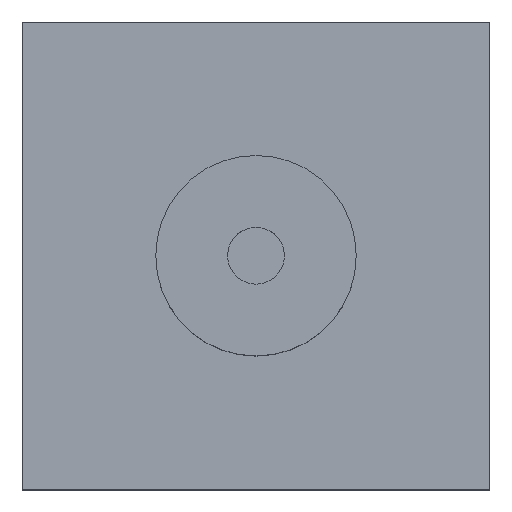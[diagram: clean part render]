
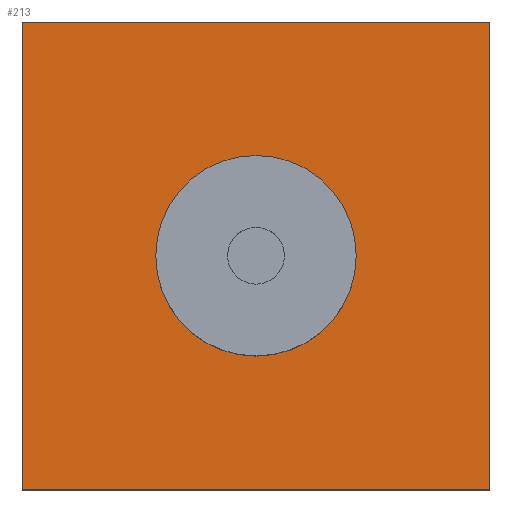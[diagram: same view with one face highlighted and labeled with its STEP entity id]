
A CAD part, top view. The second image highlights one B-rep face of the part: STEP entity #213.
In plain terms, the highlighted planar face has unit normal (0, 0, 1).
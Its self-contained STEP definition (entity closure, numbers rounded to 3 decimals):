
#24 = VERTEX_POINT('',#25);
#25 = CARTESIAN_POINT('',(-7.,-7.,3.));
#32 = PLANE('',#33);
#33 = AXIS2_PLACEMENT_3D('',#34,#35,#36);
#34 = CARTESIAN_POINT('',(-7.,-7.,0.));
#35 = DIRECTION('',(1.,0.,-0.));
#36 = DIRECTION('',(0.,0.,1.));
#44 = PLANE('',#45);
#45 = AXIS2_PLACEMENT_3D('',#46,#47,#48);
#46 = CARTESIAN_POINT('',(-7.,-7.,0.));
#47 = DIRECTION('',(-0.,1.,0.));
#48 = DIRECTION('',(0.,0.,1.));
#85 = VERTEX_POINT('',#86);
#86 = CARTESIAN_POINT('',(-7.,7.,3.));
#100 = PLANE('',#101);
#101 = AXIS2_PLACEMENT_3D('',#102,#103,#104);
#102 = CARTESIAN_POINT('',(-7.,7.,0.));
#103 = DIRECTION('',(-0.,1.,0.));
#104 = DIRECTION('',(0.,0.,1.));
#112 = EDGE_CURVE('',#24,#85,#113,.T.);
#113 = SURFACE_CURVE('',#114,(#118,#125),.PCURVE_S1.);
#114 = LINE('',#115,#116);
#115 = CARTESIAN_POINT('',(-7.,-7.,3.));
#116 = VECTOR('',#117,1.);
#117 = DIRECTION('',(-0.,1.,0.));
#118 = PCURVE('',#32,#119);
#119 = DEFINITIONAL_REPRESENTATION('',(#120),#124);
#120 = LINE('',#121,#122);
#121 = CARTESIAN_POINT('',(3.,0.));
#122 = VECTOR('',#123,1.);
#123 = DIRECTION('',(0.,-1.));
#124 = ( GEOMETRIC_REPRESENTATION_CONTEXT(2) 
PARAMETRIC_REPRESENTATION_CONTEXT() REPRESENTATION_CONTEXT('2D SPACE',''
  ) );
#125 = PCURVE('',#126,#131);
#126 = PLANE('',#127);
#127 = AXIS2_PLACEMENT_3D('',#128,#129,#130);
#128 = CARTESIAN_POINT('',(-7.,-7.,3.));
#129 = DIRECTION('',(0.,0.,1.));
#130 = DIRECTION('',(1.,0.,-0.));
#131 = DEFINITIONAL_REPRESENTATION('',(#132),#136);
#132 = LINE('',#133,#134);
#133 = CARTESIAN_POINT('',(0.,0.));
#134 = VECTOR('',#135,1.);
#135 = DIRECTION('',(0.,1.));
#136 = ( GEOMETRIC_REPRESENTATION_CONTEXT(2) 
PARAMETRIC_REPRESENTATION_CONTEXT() REPRESENTATION_CONTEXT('2D SPACE',''
  ) );
#165 = EDGE_CURVE('',#24,#166,#168,.T.);
#166 = VERTEX_POINT('',#167);
#167 = CARTESIAN_POINT('',(7.,-7.,3.));
#168 = SURFACE_CURVE('',#169,(#173,#180),.PCURVE_S1.);
#169 = LINE('',#170,#171);
#170 = CARTESIAN_POINT('',(-7.,-7.,3.));
#171 = VECTOR('',#172,1.);
#172 = DIRECTION('',(1.,0.,-0.));
#173 = PCURVE('',#44,#174);
#174 = DEFINITIONAL_REPRESENTATION('',(#175),#179);
#175 = LINE('',#176,#177);
#176 = CARTESIAN_POINT('',(3.,0.));
#177 = VECTOR('',#178,1.);
#178 = DIRECTION('',(0.,1.));
#179 = ( GEOMETRIC_REPRESENTATION_CONTEXT(2) 
PARAMETRIC_REPRESENTATION_CONTEXT() REPRESENTATION_CONTEXT('2D SPACE',''
  ) );
#180 = PCURVE('',#126,#181);
#181 = DEFINITIONAL_REPRESENTATION('',(#182),#186);
#182 = LINE('',#183,#184);
#183 = CARTESIAN_POINT('',(0.,0.));
#184 = VECTOR('',#185,1.);
#185 = DIRECTION('',(1.,0.));
#186 = ( GEOMETRIC_REPRESENTATION_CONTEXT(2) 
PARAMETRIC_REPRESENTATION_CONTEXT() REPRESENTATION_CONTEXT('2D SPACE',''
  ) );
#202 = PLANE('',#203);
#203 = AXIS2_PLACEMENT_3D('',#204,#205,#206);
#204 = CARTESIAN_POINT('',(7.,-7.,0.));
#205 = DIRECTION('',(1.,0.,-0.));
#206 = DIRECTION('',(0.,0.,1.));
#213 = ADVANCED_FACE('',(#214,#262),#126,.T.);
#214 = FACE_BOUND('',#215,.T.);
#215 = EDGE_LOOP('',(#216,#217,#218,#241));
#216 = ORIENTED_EDGE('',*,*,#112,.F.);
#217 = ORIENTED_EDGE('',*,*,#165,.T.);
#218 = ORIENTED_EDGE('',*,*,#219,.T.);
#219 = EDGE_CURVE('',#166,#220,#222,.T.);
#220 = VERTEX_POINT('',#221);
#221 = CARTESIAN_POINT('',(7.,7.,3.));
#222 = SURFACE_CURVE('',#223,(#227,#234),.PCURVE_S1.);
#223 = LINE('',#224,#225);
#224 = CARTESIAN_POINT('',(7.,-7.,3.));
#225 = VECTOR('',#226,1.);
#226 = DIRECTION('',(-0.,1.,0.));
#227 = PCURVE('',#126,#228);
#228 = DEFINITIONAL_REPRESENTATION('',(#229),#233);
#229 = LINE('',#230,#231);
#230 = CARTESIAN_POINT('',(14.,0.));
#231 = VECTOR('',#232,1.);
#232 = DIRECTION('',(0.,1.));
#233 = ( GEOMETRIC_REPRESENTATION_CONTEXT(2) 
PARAMETRIC_REPRESENTATION_CONTEXT() REPRESENTATION_CONTEXT('2D SPACE',''
  ) );
#234 = PCURVE('',#202,#235);
#235 = DEFINITIONAL_REPRESENTATION('',(#236),#240);
#236 = LINE('',#237,#238);
#237 = CARTESIAN_POINT('',(3.,0.));
#238 = VECTOR('',#239,1.);
#239 = DIRECTION('',(0.,-1.));
#240 = ( GEOMETRIC_REPRESENTATION_CONTEXT(2) 
PARAMETRIC_REPRESENTATION_CONTEXT() REPRESENTATION_CONTEXT('2D SPACE',''
  ) );
#241 = ORIENTED_EDGE('',*,*,#242,.F.);
#242 = EDGE_CURVE('',#85,#220,#243,.T.);
#243 = SURFACE_CURVE('',#244,(#248,#255),.PCURVE_S1.);
#244 = LINE('',#245,#246);
#245 = CARTESIAN_POINT('',(-7.,7.,3.));
#246 = VECTOR('',#247,1.);
#247 = DIRECTION('',(1.,0.,-0.));
#248 = PCURVE('',#126,#249);
#249 = DEFINITIONAL_REPRESENTATION('',(#250),#254);
#250 = LINE('',#251,#252);
#251 = CARTESIAN_POINT('',(0.,14.));
#252 = VECTOR('',#253,1.);
#253 = DIRECTION('',(1.,0.));
#254 = ( GEOMETRIC_REPRESENTATION_CONTEXT(2) 
PARAMETRIC_REPRESENTATION_CONTEXT() REPRESENTATION_CONTEXT('2D SPACE',''
  ) );
#255 = PCURVE('',#100,#256);
#256 = DEFINITIONAL_REPRESENTATION('',(#257),#261);
#257 = LINE('',#258,#259);
#258 = CARTESIAN_POINT('',(3.,0.));
#259 = VECTOR('',#260,1.);
#260 = DIRECTION('',(0.,1.));
#261 = ( GEOMETRIC_REPRESENTATION_CONTEXT(2) 
PARAMETRIC_REPRESENTATION_CONTEXT() REPRESENTATION_CONTEXT('2D SPACE',''
  ) );
#262 = FACE_BOUND('',#263,.T.);
#263 = EDGE_LOOP('',(#264));
#264 = ORIENTED_EDGE('',*,*,#265,.F.);
#265 = EDGE_CURVE('',#266,#266,#268,.T.);
#266 = VERTEX_POINT('',#267);
#267 = CARTESIAN_POINT('',(3.,0.,3.));
#268 = SURFACE_CURVE('',#269,(#274,#281),.PCURVE_S1.);
#269 = CIRCLE('',#270,3.);
#270 = AXIS2_PLACEMENT_3D('',#271,#272,#273);
#271 = CARTESIAN_POINT('',(0.,0.,3.));
#272 = DIRECTION('',(0.,0.,1.));
#273 = DIRECTION('',(1.,0.,-0.));
#274 = PCURVE('',#126,#275);
#275 = DEFINITIONAL_REPRESENTATION('',(#276),#280);
#276 = CIRCLE('',#277,3.);
#277 = AXIS2_PLACEMENT_2D('',#278,#279);
#278 = CARTESIAN_POINT('',(7.,7.));
#279 = DIRECTION('',(1.,0.));
#280 = ( GEOMETRIC_REPRESENTATION_CONTEXT(2) 
PARAMETRIC_REPRESENTATION_CONTEXT() REPRESENTATION_CONTEXT('2D SPACE',''
  ) );
#281 = PCURVE('',#282,#287);
#282 = CYLINDRICAL_SURFACE('',#283,3.);
#283 = AXIS2_PLACEMENT_3D('',#284,#285,#286);
#284 = CARTESIAN_POINT('',(0.,0.,3.));
#285 = DIRECTION('',(0.,0.,1.));
#286 = DIRECTION('',(1.,0.,-0.));
#287 = DEFINITIONAL_REPRESENTATION('',(#288),#292);
#288 = LINE('',#289,#290);
#289 = CARTESIAN_POINT('',(0.,0.));
#290 = VECTOR('',#291,1.);
#291 = DIRECTION('',(1.,0.));
#292 = ( GEOMETRIC_REPRESENTATION_CONTEXT(2) 
PARAMETRIC_REPRESENTATION_CONTEXT() REPRESENTATION_CONTEXT('2D SPACE',''
  ) );
